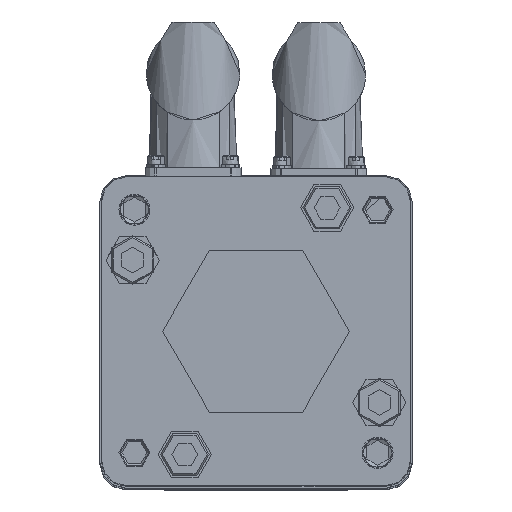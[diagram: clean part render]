
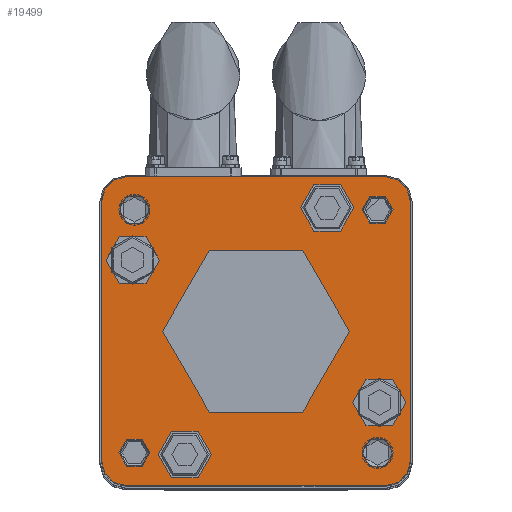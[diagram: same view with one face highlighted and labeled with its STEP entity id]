
A CAD part, top view. The second image highlights one B-rep face of the part: STEP entity #19499.
In plain terms, the highlighted planar face has unit normal (0, 0, 1).
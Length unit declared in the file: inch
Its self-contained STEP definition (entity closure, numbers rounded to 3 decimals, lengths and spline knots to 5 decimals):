
#2424=DIRECTION('',(0.,-1.,0.));
#2425=VECTOR('',#2424,2.75);
#2426=CARTESIAN_POINT('',(1.625,1.375,5.952));
#2427=LINE('',#2426,#2425);
#2428=CARTESIAN_POINT('',(-1.375,-1.375,5.952));
#2429=DIRECTION('',(0.,0.,1.));
#2430=DIRECTION('',(-1.,0.,0.));
#2431=AXIS2_PLACEMENT_3D('',#2428,#2429,#2430);
#2433=CARTESIAN_POINT('',(-1.375,1.375,5.952));
#2434=DIRECTION('',(0.,0.,1.));
#2435=DIRECTION('',(0.,1.,0.));
#2436=AXIS2_PLACEMENT_3D('',#2433,#2434,#2435);
#2438=CARTESIAN_POINT('',(1.375,1.375,5.952));
#2439=DIRECTION('',(0.,0.,1.));
#2440=DIRECTION('',(1.,0.,0.));
#2441=AXIS2_PLACEMENT_3D('',#2438,#2439,#2440);
#2443=CARTESIAN_POINT('',(1.375,-1.375,5.952));
#2444=DIRECTION('',(0.,0.,1.));
#2445=DIRECTION('',(0.,-1.,0.));
#2446=AXIS2_PLACEMENT_3D('',#2443,#2444,#2445);
#2448=CARTESIAN_POINT('',(-0.75,-1.29904,5.952));
#2449=DIRECTION('',(0.,0.,-1.));
#2450=DIRECTION('',(-1.,0.,0.));
#2451=AXIS2_PLACEMENT_3D('',#2448,#2449,#2450);
#2453=CARTESIAN_POINT('',(-0.75,-1.29904,5.952));
#2454=DIRECTION('',(0.,0.,-1.));
#2455=DIRECTION('',(1.,0.,0.));
#2456=AXIS2_PLACEMENT_3D('',#2453,#2454,#2455);
#2458=CARTESIAN_POINT('',(0.75,1.29904,5.952));
#2459=DIRECTION('',(0.,0.,-1.));
#2460=DIRECTION('',(-1.,0.,0.));
#2461=AXIS2_PLACEMENT_3D('',#2458,#2459,#2460);
#2463=CARTESIAN_POINT('',(0.75,1.29904,5.952));
#2464=DIRECTION('',(0.,0.,-1.));
#2465=DIRECTION('',(1.,0.,0.));
#2466=AXIS2_PLACEMENT_3D('',#2463,#2464,#2465);
#2468=CARTESIAN_POINT('',(-1.28059,1.28059,5.952));
#2469=DIRECTION('',(0.,0.,-1.));
#2470=DIRECTION('',(-1.,0.,0.));
#2471=AXIS2_PLACEMENT_3D('',#2468,#2469,#2470);
#2473=CARTESIAN_POINT('',(-1.28059,1.28059,5.952));
#2474=DIRECTION('',(0.,0.,-1.));
#2475=DIRECTION('',(1.,0.,0.));
#2476=AXIS2_PLACEMENT_3D('',#2473,#2474,#2475);
#2478=CARTESIAN_POINT('',(1.28059,-1.28059,5.952));
#2479=DIRECTION('',(0.,0.,-1.));
#2480=DIRECTION('',(-1.,0.,0.));
#2481=AXIS2_PLACEMENT_3D('',#2478,#2479,#2480);
#2483=CARTESIAN_POINT('',(1.28059,-1.28059,5.952));
#2484=DIRECTION('',(0.,0.,-1.));
#2485=DIRECTION('',(1.,0.,0.));
#2486=AXIS2_PLACEMENT_3D('',#2483,#2484,#2485);
#2488=CARTESIAN_POINT('',(1.28059,1.28059,5.952));
#2489=DIRECTION('',(0.,0.,-1.));
#2490=DIRECTION('',(-1.,0.,0.));
#2491=AXIS2_PLACEMENT_3D('',#2488,#2489,#2490);
#2493=CARTESIAN_POINT('',(1.28059,1.28059,5.952));
#2494=DIRECTION('',(0.,0.,-1.));
#2495=DIRECTION('',(1.,0.,0.));
#2496=AXIS2_PLACEMENT_3D('',#2493,#2494,#2495);
#2498=CARTESIAN_POINT('',(0.,0.,5.952));
#2499=DIRECTION('',(0.,0.,-1.));
#2500=DIRECTION('',(1.,0.,0.));
#2501=AXIS2_PLACEMENT_3D('',#2498,#2499,#2500);
#2503=CARTESIAN_POINT('',(0.,0.,5.952));
#2504=DIRECTION('',(0.,0.,-1.));
#2505=DIRECTION('',(-1.,0.,0.));
#2506=AXIS2_PLACEMENT_3D('',#2503,#2504,#2505);
#2508=CARTESIAN_POINT('',(-1.28059,-1.28059,5.952));
#2509=DIRECTION('',(0.,0.,-1.));
#2510=DIRECTION('',(-1.,0.,0.));
#2511=AXIS2_PLACEMENT_3D('',#2508,#2509,#2510);
#2513=CARTESIAN_POINT('',(-1.28059,-1.28059,5.952));
#2514=DIRECTION('',(0.,0.,-1.));
#2515=DIRECTION('',(1.,0.,0.));
#2516=AXIS2_PLACEMENT_3D('',#2513,#2514,#2515);
#2518=CARTESIAN_POINT('',(1.29904,-0.75,5.952));
#2519=DIRECTION('',(0.,0.,-1.));
#2520=DIRECTION('',(-1.,0.,0.));
#2521=AXIS2_PLACEMENT_3D('',#2518,#2519,#2520);
#2523=CARTESIAN_POINT('',(1.29904,-0.75,5.952));
#2524=DIRECTION('',(0.,0.,-1.));
#2525=DIRECTION('',(1.,0.,0.));
#2526=AXIS2_PLACEMENT_3D('',#2523,#2524,#2525);
#2528=CARTESIAN_POINT('',(-1.29904,0.75,5.952));
#2529=DIRECTION('',(0.,0.,-1.));
#2530=DIRECTION('',(-1.,0.,0.));
#2531=AXIS2_PLACEMENT_3D('',#2528,#2529,#2530);
#2533=CARTESIAN_POINT('',(-1.29904,0.75,5.952));
#2534=DIRECTION('',(0.,0.,-1.));
#2535=DIRECTION('',(1.,0.,0.));
#2536=AXIS2_PLACEMENT_3D('',#2533,#2534,#2535);
#2538=DIRECTION('',(-1.,0.,0.));
#2539=VECTOR('',#2538,2.75);
#2540=CARTESIAN_POINT('',(1.375,-1.625,5.952));
#2541=LINE('',#2540,#2539);
#2550=DIRECTION('',(0.,1.,0.));
#2551=VECTOR('',#2550,2.75);
#2552=CARTESIAN_POINT('',(-1.625,-1.375,5.952));
#2553=LINE('',#2552,#2551);
#2562=DIRECTION('',(1.,0.,0.));
#2563=VECTOR('',#2562,2.75);
#2564=CARTESIAN_POINT('',(-1.375,1.625,5.952));
#2565=LINE('',#2564,#2563);
#15552=CARTESIAN_POINT('',(-0.46874,-1.29904,5.952));
#15553=VERTEX_POINT('',#15552);
#15601=CARTESIAN_POINT('',(0.46874,1.29904,5.952));
#15602=VERTEX_POINT('',#15601);
#15611=CARTESIAN_POINT('',(1.1172,1.28059,5.952));
#15613=VERTEX_POINT('',#15611);
#15615=CARTESIAN_POINT('',(1.44397,1.28059,5.952));
#15616=VERTEX_POINT('',#15615);
#15621=CARTESIAN_POINT('',(1.1172,-1.28059,5.952));
#15623=VERTEX_POINT('',#15621);
#15633=CARTESIAN_POINT('',(-1.44397,-1.28059,5.952));
#15635=VERTEX_POINT('',#15633);
#15639=CARTESIAN_POINT('',(-0.98425,0.,5.952));
#15641=VERTEX_POINT('',#15639);
#15647=CARTESIAN_POINT('',(1.03126,1.29904,5.952));
#15648=VERTEX_POINT('',#15647);
#15659=CARTESIAN_POINT('',(1.44397,-1.28059,5.952));
#15660=VERTEX_POINT('',#15659);
#15661=CARTESIAN_POINT('',(-1.44397,1.28059,5.952));
#15662=VERTEX_POINT('',#15661);
#15677=CARTESIAN_POINT('',(1.5803,-0.75,5.952));
#15679=VERTEX_POINT('',#15677);
#15689=CARTESIAN_POINT('',(-1.5803,0.75,5.952));
#15690=VERTEX_POINT('',#15689);
#15691=CARTESIAN_POINT('',(-1.1172,1.28059,5.952));
#15692=VERTEX_POINT('',#15691);
#15701=CARTESIAN_POINT('',(-1.03126,-1.29904,5.952));
#15702=VERTEX_POINT('',#15701);
#15713=CARTESIAN_POINT('',(0.98425,0.,5.952));
#15715=VERTEX_POINT('',#15713);
#15745=CARTESIAN_POINT('',(-1.1172,-1.28059,5.952));
#15746=VERTEX_POINT('',#15745);
#15799=CARTESIAN_POINT('',(-1.01778,0.75,5.952));
#15800=VERTEX_POINT('',#15799);
#15877=CARTESIAN_POINT('',(1.01778,-0.75,5.952));
#15878=VERTEX_POINT('',#15877);
#17266=CARTESIAN_POINT('',(1.625,1.375,5.952));
#17267=CARTESIAN_POINT('',(1.625,-1.375,5.952));
#17268=VERTEX_POINT('',#17266);
#17269=VERTEX_POINT('',#17267);
#17270=CARTESIAN_POINT('',(1.375,1.625,5.952));
#17271=VERTEX_POINT('',#17270);
#17272=CARTESIAN_POINT('',(-1.375,1.625,5.952));
#17273=VERTEX_POINT('',#17272);
#17274=CARTESIAN_POINT('',(-1.625,1.375,5.952));
#17275=VERTEX_POINT('',#17274);
#17276=CARTESIAN_POINT('',(-1.625,-1.375,5.952));
#17277=VERTEX_POINT('',#17276);
#17278=CARTESIAN_POINT('',(-1.375,-1.625,5.952));
#17279=VERTEX_POINT('',#17278);
#17286=CARTESIAN_POINT('',(1.375,-1.625,5.952));
#17287=VERTEX_POINT('',#17286);
#19423=CARTESIAN_POINT('',(1.625,1.625,5.952));
#19424=DIRECTION('',(0.,0.,-1.));
#19425=DIRECTION('',(-1.,0.,0.));
#19426=AXIS2_PLACEMENT_3D('',#19423,#19424,#19425);
#19427=PLANE('',#19426);
#19429=ORIENTED_EDGE('',*,*,#19428,.T.);
#19431=ORIENTED_EDGE('',*,*,#19430,.F.);
#19433=ORIENTED_EDGE('',*,*,#19432,.T.);
#19435=ORIENTED_EDGE('',*,*,#19434,.F.);
#19437=ORIENTED_EDGE('',*,*,#19436,.T.);
#19439=ORIENTED_EDGE('',*,*,#19438,.F.);
#19440=ORIENTED_EDGE('',*,*,#19413,.T.);
#19442=ORIENTED_EDGE('',*,*,#19441,.F.);
#19443=EDGE_LOOP('',(#19429,#19431,#19433,#19435,#19437,#19439,#19440,#19442));
#19444=FACE_OUTER_BOUND('',#19443,.F.);
#19446=ORIENTED_EDGE('',*,*,#19445,.F.);
#19448=ORIENTED_EDGE('',*,*,#19447,.F.);
#19449=EDGE_LOOP('',(#19446,#19448));
#19450=FACE_BOUND('',#19449,.F.);
#19452=ORIENTED_EDGE('',*,*,#19451,.F.);
#19454=ORIENTED_EDGE('',*,*,#19453,.F.);
#19455=EDGE_LOOP('',(#19452,#19454));
#19456=FACE_BOUND('',#19455,.F.);
#19458=ORIENTED_EDGE('',*,*,#19457,.F.);
#19460=ORIENTED_EDGE('',*,*,#19459,.F.);
#19461=EDGE_LOOP('',(#19458,#19460));
#19462=FACE_BOUND('',#19461,.F.);
#19464=ORIENTED_EDGE('',*,*,#19463,.F.);
#19466=ORIENTED_EDGE('',*,*,#19465,.F.);
#19467=EDGE_LOOP('',(#19464,#19466));
#19468=FACE_BOUND('',#19467,.F.);
#19470=ORIENTED_EDGE('',*,*,#19469,.F.);
#19472=ORIENTED_EDGE('',*,*,#19471,.F.);
#19473=EDGE_LOOP('',(#19470,#19472));
#19474=FACE_BOUND('',#19473,.F.);
#19476=ORIENTED_EDGE('',*,*,#19475,.F.);
#19478=ORIENTED_EDGE('',*,*,#19477,.F.);
#19479=EDGE_LOOP('',(#19476,#19478));
#19480=FACE_BOUND('',#19479,.F.);
#19482=ORIENTED_EDGE('',*,*,#19481,.F.);
#19484=ORIENTED_EDGE('',*,*,#19483,.F.);
#19485=EDGE_LOOP('',(#19482,#19484));
#19486=FACE_BOUND('',#19485,.F.);
#19488=ORIENTED_EDGE('',*,*,#19487,.F.);
#19490=ORIENTED_EDGE('',*,*,#19489,.F.);
#19491=EDGE_LOOP('',(#19488,#19490));
#19492=FACE_BOUND('',#19491,.F.);
#19494=ORIENTED_EDGE('',*,*,#19493,.F.);
#19496=ORIENTED_EDGE('',*,*,#19495,.F.);
#19497=EDGE_LOOP('',(#19494,#19496));
#19498=FACE_BOUND('',#19497,.F.);
#19499=ADVANCED_FACE('',(#19444,#19450,#19456,#19462,#19468,#19474,#19480,
#19486,#19492,#19498),#19427,.F.);
#2432=CIRCLE('',#2431,0.25);
#2437=CIRCLE('',#2436,0.25);
#2442=CIRCLE('',#2441,0.25);
#2447=CIRCLE('',#2446,0.25);
#2452=CIRCLE('',#2451,0.28126);
#2457=CIRCLE('',#2456,0.28126);
#2462=CIRCLE('',#2461,0.28126);
#2467=CIRCLE('',#2466,0.28126);
#2472=CIRCLE('',#2471,0.16339);
#2477=CIRCLE('',#2476,0.16339);
#2482=CIRCLE('',#2481,0.16339);
#2487=CIRCLE('',#2486,0.16339);
#2492=CIRCLE('',#2491,0.16339);
#2497=CIRCLE('',#2496,0.16339);
#2502=CIRCLE('',#2501,0.98425);
#2507=CIRCLE('',#2506,0.98425);
#2512=CIRCLE('',#2511,0.16339);
#2517=CIRCLE('',#2516,0.16339);
#2522=CIRCLE('',#2521,0.28126);
#2527=CIRCLE('',#2526,0.28126);
#2532=CIRCLE('',#2531,0.28126);
#2537=CIRCLE('',#2536,0.28126);
#19413=EDGE_CURVE('',#17268,#17269,#2427,.T.);
#19428=EDGE_CURVE('',#17287,#17279,#2541,.T.);
#19430=EDGE_CURVE('',#17277,#17279,#2432,.T.);
#19432=EDGE_CURVE('',#17277,#17275,#2553,.T.);
#19434=EDGE_CURVE('',#17273,#17275,#2437,.T.);
#19436=EDGE_CURVE('',#17273,#17271,#2565,.T.);
#19438=EDGE_CURVE('',#17268,#17271,#2442,.T.);
#19441=EDGE_CURVE('',#17287,#17269,#2447,.T.);
#19445=EDGE_CURVE('',#15702,#15553,#2452,.T.);
#19447=EDGE_CURVE('',#15553,#15702,#2457,.T.);
#19451=EDGE_CURVE('',#15602,#15648,#2462,.T.);
#19453=EDGE_CURVE('',#15648,#15602,#2467,.T.);
#19457=EDGE_CURVE('',#15662,#15692,#2472,.T.);
#19459=EDGE_CURVE('',#15692,#15662,#2477,.T.);
#19463=EDGE_CURVE('',#15623,#15660,#2482,.T.);
#19465=EDGE_CURVE('',#15660,#15623,#2487,.T.);
#19469=EDGE_CURVE('',#15613,#15616,#2492,.T.);
#19471=EDGE_CURVE('',#15616,#15613,#2497,.T.);
#19475=EDGE_CURVE('',#15715,#15641,#2502,.T.);
#19477=EDGE_CURVE('',#15641,#15715,#2507,.T.);
#19481=EDGE_CURVE('',#15635,#15746,#2512,.T.);
#19483=EDGE_CURVE('',#15746,#15635,#2517,.T.);
#19487=EDGE_CURVE('',#15878,#15679,#2522,.T.);
#19489=EDGE_CURVE('',#15679,#15878,#2527,.T.);
#19493=EDGE_CURVE('',#15690,#15800,#2532,.T.);
#19495=EDGE_CURVE('',#15800,#15690,#2537,.T.);
